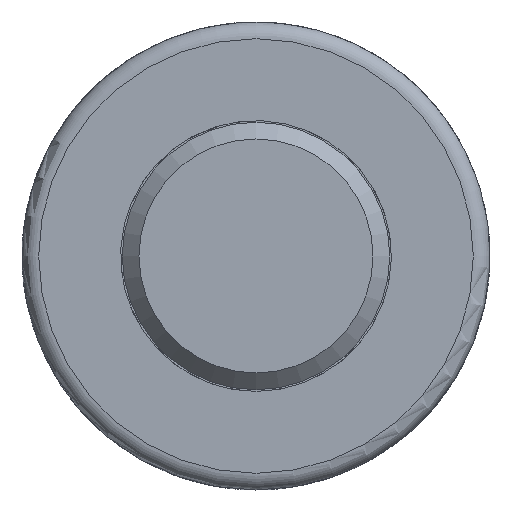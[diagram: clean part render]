
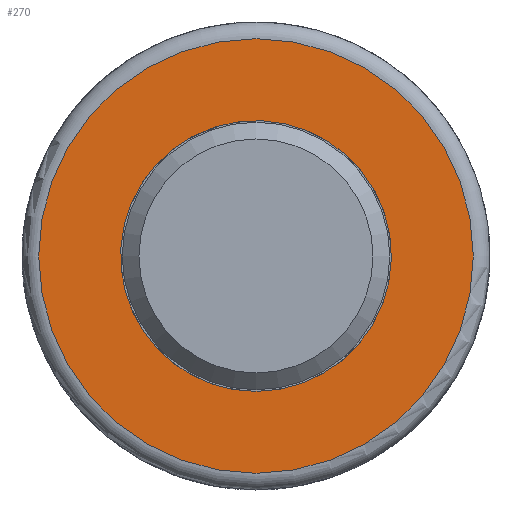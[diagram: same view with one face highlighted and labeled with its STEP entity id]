
A CAD part, front view. The second image highlights one B-rep face of the part: STEP entity #270.
In plain terms, the highlighted planar face has unit normal (0, -1, 0).
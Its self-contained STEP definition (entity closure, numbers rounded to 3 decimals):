
#270=ADVANCED_FACE('',(#355,#356),#306,.T.);
#306=PLANE('',#1103);
#323=CIRCLE('',#1096,4.05);
#328=CIRCLE('',#1102,6.5);
#355=FACE_BOUND('',#407,.T.);
#356=FACE_BOUND('',#408,.T.);
#407=EDGE_LOOP('',(#623));
#408=EDGE_LOOP('',(#624));
#623=ORIENTED_EDGE('',*,*,#918,.T.);
#624=ORIENTED_EDGE('',*,*,#913,.F.);
#789=VERTEX_POINT('',#2533);
#790=VERTEX_POINT('',#2540);
#913=EDGE_CURVE('',#789,#789,#323,.T.);
#918=EDGE_CURVE('',#790,#790,#328,.T.);
#1096=AXIS2_PLACEMENT_3D('',#2532,#1295,#1296);
#1102=AXIS2_PLACEMENT_3D('',#2539,#1307,#1308);
#1103=AXIS2_PLACEMENT_3D('',#2541,#1309,#1310);
#1295=DIRECTION('',(0.,-1.,0.));
#1296=DIRECTION('',(0.,0.,-1.));
#1307=DIRECTION('',(0.,-1.,0.));
#1308=DIRECTION('',(0.,0.,-1.));
#1309=DIRECTION('',(0.,-1.,0.));
#1310=DIRECTION('',(1.,0.,0.));
#2532=CARTESIAN_POINT('',(0.,-14.978,0.022));
#2533=CARTESIAN_POINT('',(0.,-14.978,-4.028));
#2539=CARTESIAN_POINT('',(0.,-14.978,0.022));
#2540=CARTESIAN_POINT('',(0.,-14.978,-6.478));
#2541=CARTESIAN_POINT('',(0.,-14.978,0.022));
